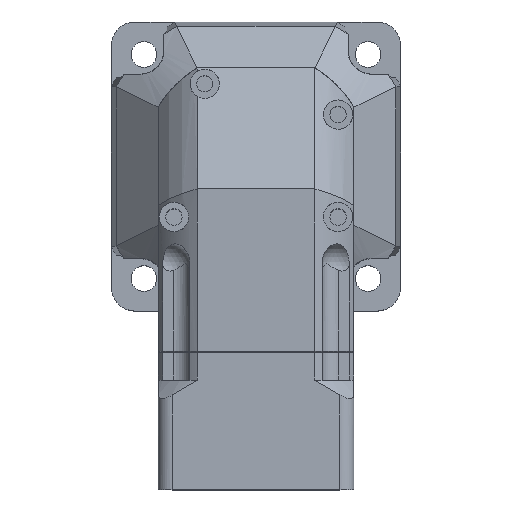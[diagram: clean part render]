
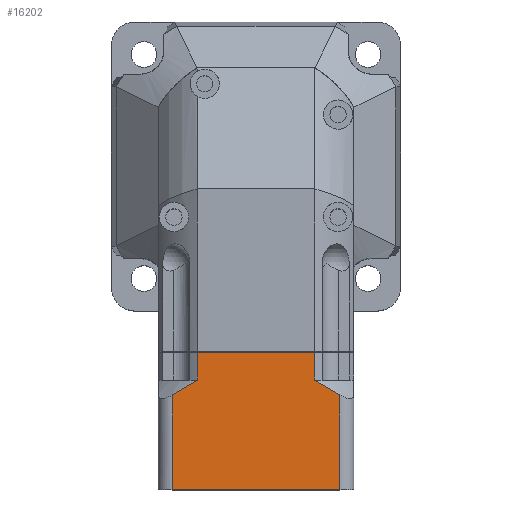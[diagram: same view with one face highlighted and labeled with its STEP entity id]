
A CAD part, top view. The second image highlights one B-rep face of the part: STEP entity #16202.
In plain terms, the highlighted planar face has unit normal (0, 0, 1) as drawn and (0, 0, -1) by its records, which use the part's own axes.
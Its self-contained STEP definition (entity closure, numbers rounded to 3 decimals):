
#14239=DIRECTION('',(-1.,0.,0.));
#14240=VECTOR('',#14239,36.);
#14241=CARTESIAN_POINT('',(18.,29.5,-21.));
#14242=LINE('',#14241,#14240);
#14408=DIRECTION('',(0.,1.,0.));
#14409=VECTOR('',#14408,20.341);
#14410=CARTESIAN_POINT('',(-18.,9.159,-21.));
#14411=LINE('',#14410,#14409);
#14708=DIRECTION('',(-1.,0.,0.));
#14709=VECTOR('',#14708,25.239);
#14710=CARTESIAN_POINT('',(12.619,0.,-21.));
#14711=LINE('',#14710,#14709);
#14722=DIRECTION('',(0.,1.,0.));
#14723=VECTOR('',#14722,6.);
#14724=CARTESIAN_POINT('',(-12.619,0.,-21.));
#14725=LINE('',#14724,#14723);
#14900=DIRECTION('',(0.,1.,0.));
#14901=VECTOR('',#14900,6.);
#14902=CARTESIAN_POINT('',(12.619,0.,-21.));
#14903=LINE('',#14902,#14901);
#14904=CARTESIAN_POINT('',(18.,9.159,-21.));
#14905=CARTESIAN_POINT('',(17.346,8.733,-21.));
#14906=CARTESIAN_POINT('',(16.074,7.932,-21.));
#14907=CARTESIAN_POINT('',(14.294,6.89,-21.));
#14908=CARTESIAN_POINT('',(13.166,6.282,-21.));
#14909=CARTESIAN_POINT('',(12.619,6.,-21.));
#14911=DIRECTION('',(0.,1.,0.));
#14912=VECTOR('',#14911,20.341);
#14913=CARTESIAN_POINT('',(18.,9.159,-21.));
#14914=LINE('',#14913,#14912);
#14915=CARTESIAN_POINT('',(-12.619,6.,-21.));
#14916=CARTESIAN_POINT('',(-13.169,6.283,-21.));
#14917=CARTESIAN_POINT('',(-14.301,6.894,-21.));
#14918=CARTESIAN_POINT('',(-16.079,7.935,-21.));
#14919=CARTESIAN_POINT('',(-17.348,8.734,-21.));
#14920=CARTESIAN_POINT('',(-18.,9.159,-21.));
#15082=CARTESIAN_POINT('',(-12.619,0.,-21.));
#15084=VERTEX_POINT('',#15082);
#15128=CARTESIAN_POINT('',(12.619,0.,-21.));
#15129=VERTEX_POINT('',#15128);
#15142=CARTESIAN_POINT('',(18.,29.5,-21.));
#15143=CARTESIAN_POINT('',(-18.,29.5,-21.));
#15144=VERTEX_POINT('',#15142);
#15145=VERTEX_POINT('',#15143);
#15186=CARTESIAN_POINT('',(-12.619,6.,-21.));
#15187=VERTEX_POINT('',#15186);
#15200=CARTESIAN_POINT('',(12.619,6.,-21.));
#15201=VERTEX_POINT('',#15200);
#15274=VERTEX_POINT('',#14904);
#15275=VERTEX_POINT('',#14920);
#16185=CARTESIAN_POINT('',(12.619,0.,-21.));
#16186=DIRECTION('',(0.,0.,-1.));
#16187=DIRECTION('',(-1.,0.,0.));
#16188=AXIS2_PLACEMENT_3D('',#16185,#16186,#16187);
#16189=PLANE('',#16188);
#16190=ORIENTED_EDGE('',*,*,#15891,.F.);
#16191=ORIENTED_EDGE('',*,*,#15871,.F.);
#16193=ORIENTED_EDGE('',*,*,#16192,.T.);
#16194=ORIENTED_EDGE('',*,*,#15643,.F.);
#16196=ORIENTED_EDGE('',*,*,#16195,.T.);
#16197=ORIENTED_EDGE('',*,*,#15331,.T.);
#16198=ORIENTED_EDGE('',*,*,#15582,.F.);
#16199=ORIENTED_EDGE('',*,*,#15664,.F.);
#16200=EDGE_LOOP('',(#16190,#16191,#16193,#16194,#16196,#16197,#16198,#16199));
#16201=FACE_OUTER_BOUND('',#16200,.F.);
#16202=ADVANCED_FACE('',(#16201),#16189,.T.);
#14910=B_SPLINE_CURVE_WITH_KNOTS('',3,(#14904,#14905,#14906,#14907,#14908,
#14909),.UNSPECIFIED.,.F.,.F.,(4,1,1,4),(0.,0.333,
0.667,1.),.UNSPECIFIED.);
#14921=B_SPLINE_CURVE_WITH_KNOTS('',3,(#14915,#14916,#14917,#14918,#14919,
#14920),.UNSPECIFIED.,.F.,.F.,(4,1,1,4),(0.,0.333,
0.667,1.),.UNSPECIFIED.);
#15331=EDGE_CURVE('',#15144,#15145,#14242,.T.);
#15582=EDGE_CURVE('',#15275,#15145,#14411,.T.);
#15643=EDGE_CURVE('',#15274,#15201,#14910,.T.);
#15664=EDGE_CURVE('',#15187,#15275,#14921,.T.);
#15871=EDGE_CURVE('',#15129,#15084,#14711,.T.);
#15891=EDGE_CURVE('',#15084,#15187,#14725,.T.);
#16192=EDGE_CURVE('',#15129,#15201,#14903,.T.);
#16195=EDGE_CURVE('',#15274,#15144,#14914,.T.);
